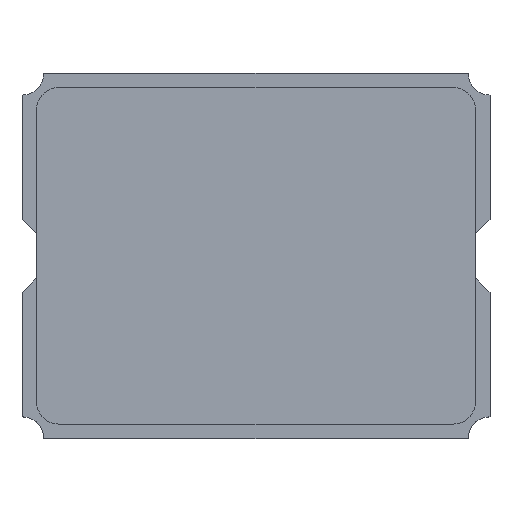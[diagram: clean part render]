
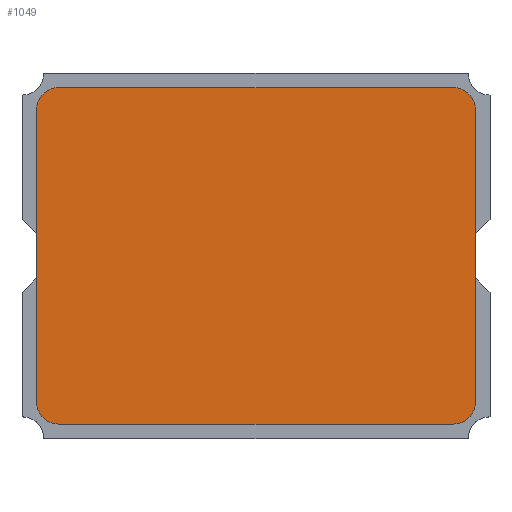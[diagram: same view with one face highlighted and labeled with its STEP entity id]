
A CAD part, top view. The second image highlights one B-rep face of the part: STEP entity #1049.
In plain terms, the highlighted planar face has unit normal (0, 0, 1).
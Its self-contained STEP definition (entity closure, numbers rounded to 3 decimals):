
#59 = EDGE_CURVE ( 'NONE', #2976, #3544, #2674, .T. ) ;
#101 = ORIENTED_EDGE ( 'NONE', *, *, #4152, .T. ) ;
#134 = DIRECTION ( 'NONE',  ( -1., 0., 0. ) ) ;
#400 = DIRECTION ( 'NONE',  ( 0., 0., 1. ) ) ;
#419 = FACE_OUTER_BOUND ( 'NONE', #1304, .T. ) ;
#518 = VECTOR ( 'NONE', #134, 1000. ) ;
#567 = LINE ( 'NONE', #805, #518 ) ;
#696 = EDGE_CURVE ( 'NONE', #3544, #847, #567, .T. ) ;
#706 = CARTESIAN_POINT ( 'NONE',  ( 1.35, 1., 1. ) ) ;
#774 = CARTESIAN_POINT ( 'NONE',  ( -1.5, -1., 1. ) ) ;
#805 = CARTESIAN_POINT ( 'NONE',  ( -1.35, 1.15, 1. ) ) ;
#847 = VERTEX_POINT ( 'NONE', #1472 ) ;
#852 = ORIENTED_EDGE ( 'NONE', *, *, #3941, .T. ) ;
#891 = CARTESIAN_POINT ( 'NONE',  ( 1.35, -1., 1. ) ) ;
#935 = ORIENTED_EDGE ( 'NONE', *, *, #2157, .T. ) ;
#962 = ORIENTED_EDGE ( 'NONE', *, *, #3509, .T. ) ;
#986 = CARTESIAN_POINT ( 'NONE',  ( 1.35, 1., 1. ) ) ;
#1015 = CIRCLE ( 'NONE', #3664, 0.15 ) ;
#1024 = AXIS2_PLACEMENT_3D ( 'NONE', #891, #3402, #1252 ) ;
#1046 = LINE ( 'NONE', #1351, #1057 ) ;
#1049 = ADVANCED_FACE ( 'NONE', ( #419 ), #1606, .F. ) ;
#1057 = VECTOR ( 'NONE', #1097, 1000. ) ;
#1097 = DIRECTION ( 'NONE',  ( 0., -1., 0. ) ) ;
#1164 = DIRECTION ( 'NONE',  ( -1., 0., 0. ) ) ;
#1204 = DIRECTION ( 'NONE',  ( 0., 0., 1. ) ) ;
#1218 = CARTESIAN_POINT ( 'NONE',  ( -1.35, -1., 1. ) ) ;
#1239 = CARTESIAN_POINT ( 'NONE',  ( 1.35, -1.15, 1. ) ) ;
#1252 = DIRECTION ( 'NONE',  ( 1., 0., 0. ) ) ;
#1304 = EDGE_LOOP ( 'NONE', ( #4186, #4570, #101, #3767, #935, #962, #3650, #852 ) ) ;
#1351 = CARTESIAN_POINT ( 'NONE',  ( -1.5, -1., 1. ) ) ;
#1444 = CARTESIAN_POINT ( 'NONE',  ( -1.35, 1., 1. ) ) ;
#1472 = CARTESIAN_POINT ( 'NONE',  ( -1.35, 1.15, 1. ) ) ;
#1482 = CARTESIAN_POINT ( 'NONE',  ( -1.5, 1., 1. ) ) ;
#1606 = PLANE ( 'NONE',  #4076 ) ;
#1753 = CARTESIAN_POINT ( 'NONE',  ( 1.5, -1., 1. ) ) ;
#1768 = DIRECTION ( 'NONE',  ( -1., 0., 0. ) ) ;
#1808 = DIRECTION ( 'NONE',  ( 1., 0., 0. ) ) ;
#1946 = CARTESIAN_POINT ( 'NONE',  ( 1.5, -1., 1. ) ) ;
#2153 = VERTEX_POINT ( 'NONE', #1946 ) ;
#2157 = EDGE_CURVE ( 'NONE', #4231, #2712, #1015, .T. ) ;
#2250 = CARTESIAN_POINT ( 'NONE',  ( -1.35, -1.15, 1. ) ) ;
#2314 = VECTOR ( 'NONE', #1808, 1000. ) ;
#2334 = LINE ( 'NONE', #2902, #2314 ) ;
#2674 = CIRCLE ( 'NONE', #2886, 0.15 ) ;
#2712 = VERTEX_POINT ( 'NONE', #2250 ) ;
#2886 = AXIS2_PLACEMENT_3D ( 'NONE', #706, #400, #4373 ) ;
#2902 = CARTESIAN_POINT ( 'NONE',  ( -1.35, -1.15, 1. ) ) ;
#2976 = VERTEX_POINT ( 'NONE', #4491 ) ;
#3127 = EDGE_CURVE ( 'NONE', #3525, #4231, #1046, .T. ) ;
#3149 = VECTOR ( 'NONE', #3952, 1000. ) ;
#3163 = LINE ( 'NONE', #1753, #3149 ) ;
#3402 = DIRECTION ( 'NONE',  ( 0., 0., 1. ) ) ;
#3471 = DIRECTION ( 'NONE',  ( 0., 0., -1. ) ) ;
#3486 = DIRECTION ( 'NONE',  ( -1., 0., 0. ) ) ;
#3509 = EDGE_CURVE ( 'NONE', #2712, #4518, #2334, .T. ) ;
#3525 = VERTEX_POINT ( 'NONE', #1482 ) ;
#3544 = VERTEX_POINT ( 'NONE', #4367 ) ;
#3615 = EDGE_CURVE ( 'NONE', #4518, #2153, #4576, .T. ) ;
#3650 = ORIENTED_EDGE ( 'NONE', *, *, #3615, .T. ) ;
#3664 = AXIS2_PLACEMENT_3D ( 'NONE', #1218, #1204, #1164 ) ;
#3710 = CIRCLE ( 'NONE', #3732, 0.15 ) ;
#3732 = AXIS2_PLACEMENT_3D ( 'NONE', #1444, #3973, #1768 ) ;
#3767 = ORIENTED_EDGE ( 'NONE', *, *, #3127, .T. ) ;
#3941 = EDGE_CURVE ( 'NONE', #2153, #2976, #3163, .T. ) ;
#3952 = DIRECTION ( 'NONE',  ( 0., 1., 0. ) ) ;
#3973 = DIRECTION ( 'NONE',  ( 0., 0., 1. ) ) ;
#4076 = AXIS2_PLACEMENT_3D ( 'NONE', #986, #3471, #3486 ) ;
#4152 = EDGE_CURVE ( 'NONE', #847, #3525, #3710, .T. ) ;
#4186 = ORIENTED_EDGE ( 'NONE', *, *, #59, .T. ) ;
#4231 = VERTEX_POINT ( 'NONE', #774 ) ;
#4367 = CARTESIAN_POINT ( 'NONE',  ( 1.35, 1.15, 1. ) ) ;
#4373 = DIRECTION ( 'NONE',  ( -1., 0., 0. ) ) ;
#4491 = CARTESIAN_POINT ( 'NONE',  ( 1.5, 1., 1. ) ) ;
#4518 = VERTEX_POINT ( 'NONE', #1239 ) ;
#4570 = ORIENTED_EDGE ( 'NONE', *, *, #696, .T. ) ;
#4576 = CIRCLE ( 'NONE', #1024, 0.15 ) ;
